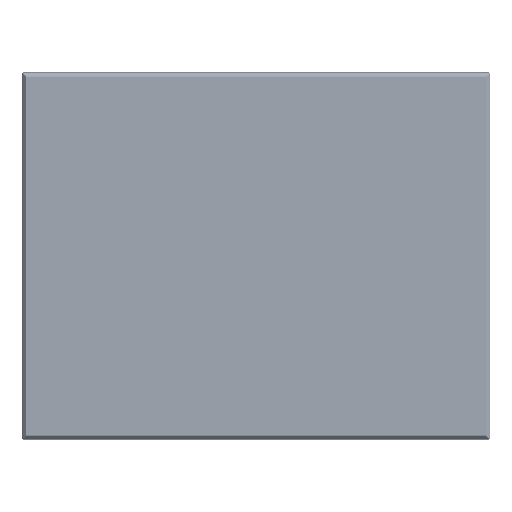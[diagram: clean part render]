
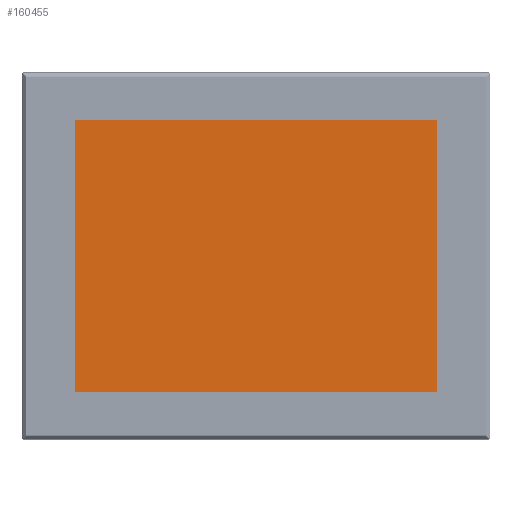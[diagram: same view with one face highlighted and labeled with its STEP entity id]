
A CAD part, top view. The second image highlights one B-rep face of the part: STEP entity #160455.
In plain terms, the highlighted planar face has unit normal (0, 0, 1).
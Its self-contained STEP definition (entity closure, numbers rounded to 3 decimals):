
#5725 = VECTOR ( 'NONE', #47547, 1000. ) ;
#30151 = ORIENTED_EDGE ( 'NONE', *, *, #763096, .T. ) ;
#30316 = CARTESIAN_POINT ( 'NONE',  ( 152.8, 114.8, 0.178 ) ) ;
#39788 = CARTESIAN_POINT ( 'NONE',  ( -152.8, -114.8, 0.178 ) ) ;
#47547 = DIRECTION ( 'NONE',  ( 0., -1., 0. ) ) ;
#65330 = ORIENTED_EDGE ( 'NONE', *, *, #451629, .T. ) ;
#93609 = ORIENTED_EDGE ( 'NONE', *, *, #443782, .T. ) ;
#93799 = PLANE ( 'NONE',  #548420 ) ;
#102880 = CARTESIAN_POINT ( 'NONE',  ( 152.8, -114.8, 0.178 ) ) ;
#120649 = CARTESIAN_POINT ( 'NONE',  ( -152.8, -114.8, 0.178 ) ) ;
#124364 = EDGE_CURVE ( 'NONE', #162431, #362249, #367111, .T. ) ;
#133644 = DIRECTION ( 'NONE',  ( 0., 1., 0. ) ) ;
#160455 = ADVANCED_FACE ( 'NONE', ( #760764 ), #93799, .T. ) ;
#161893 = LINE ( 'NONE', #39788, #5725 ) ;
#162431 = VERTEX_POINT ( 'NONE', #30316 ) ;
#216035 = CARTESIAN_POINT ( 'NONE',  ( 0., 0., 0.178 ) ) ;
#219043 = ORIENTED_EDGE ( 'NONE', *, *, #124364, .T. ) ;
#227728 = DIRECTION ( 'NONE',  ( 1., 0., 0. ) ) ;
#263616 = VECTOR ( 'NONE', #227728, 1000. ) ;
#305834 = VECTOR ( 'NONE', #133644, 1000. ) ;
#350517 = VERTEX_POINT ( 'NONE', #120649 ) ;
#353886 = CARTESIAN_POINT ( 'NONE',  ( 152.8, -114.8, 0.178 ) ) ;
#362249 = VERTEX_POINT ( 'NONE', #678118 ) ;
#367111 = LINE ( 'NONE', #548822, #628879 ) ;
#443782 = EDGE_CURVE ( 'NONE', #534976, #162431, #611217, .T. ) ;
#451629 = EDGE_CURVE ( 'NONE', #350517, #534976, #750208, .T. ) ;
#489580 = DIRECTION ( 'NONE',  ( -1., 0., 0. ) ) ;
#534976 = VERTEX_POINT ( 'NONE', #102880 ) ;
#548420 = AXIS2_PLACEMENT_3D ( 'NONE', #216035, #756893, #697564 ) ;
#548822 = CARTESIAN_POINT ( 'NONE',  ( 152.8, 114.8, 0.178 ) ) ;
#611217 = LINE ( 'NONE', #619034, #305834 ) ;
#619034 = CARTESIAN_POINT ( 'NONE',  ( 152.8, -114.8, 0.178 ) ) ;
#628879 = VECTOR ( 'NONE', #489580, 1000. ) ;
#678118 = CARTESIAN_POINT ( 'NONE',  ( -152.8, 114.8, 0.178 ) ) ;
#697564 = DIRECTION ( 'NONE',  ( 1., 0., 0. ) ) ;
#701355 = EDGE_LOOP ( 'NONE', ( #93609, #219043, #30151, #65330 ) ) ;
#750208 = LINE ( 'NONE', #353886, #263616 ) ;
#756893 = DIRECTION ( 'NONE',  ( 0., 0., 1. ) ) ;
#760764 = FACE_OUTER_BOUND ( 'NONE', #701355, .T. ) ;
#763096 = EDGE_CURVE ( 'NONE', #362249, #350517, #161893, .T. ) ;
